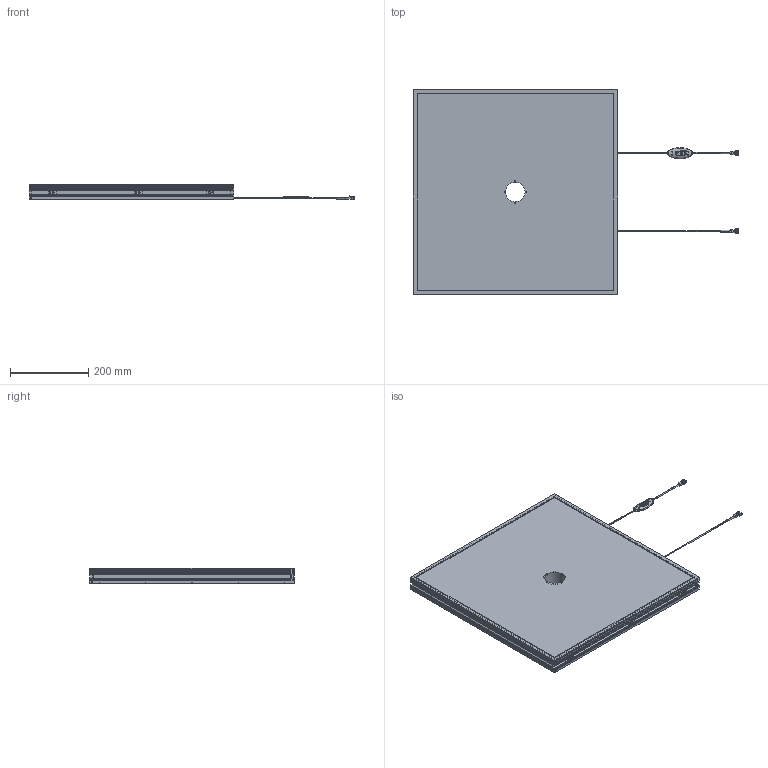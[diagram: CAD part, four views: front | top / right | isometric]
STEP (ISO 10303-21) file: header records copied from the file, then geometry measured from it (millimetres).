
FILE_DESCRIPTION( ('This file contains a STEP AP42 implementation' ,'as created by ZW3D STEP Interface translator.') ,'2;1' );
FILE_NAME( 'VDFHL-500500_DRAWING_3D.stp' ,'25 911.1539 7', (''), ('ZWCAD Software Co.'), 'Version 1.0', 'ZW3D to STEP translator', '' );
FILE_SCHEMA(('AUTOMOTIVE_DESIGN { 1 0 10303 214 1 1 1 1 }'));
Length unit declared in the file: millimetre
Products named in the file (1): 0
Bounding box: 833.5 x 523 x 38.6 mm (x, y, z)
Volume: 1441496.2 mm3; surface area: 1367921.8 mm2
Topology: 1 solids, 40 shells, 1728 faces, 4637 edges, 3103 vertices
Faces by surface type: plane 1050, cylinder 480, cone 180, bspline 10, torus 8
Full cylindrical faces by diameter (mm): 1.6 x104, 2 x8, 2.2 x28, 3 x4, 50 x1
Entity records: 57297 total; most frequent: CARTESIAN_POINT 11856, ORIENTED_EDGE 9130, DIRECTION 8595, EDGE_CURVE 4565, VECTOR 3229, LINE 3229, VERTEX_POINT 3103, AXIS2_PLACEMENT_3D 2683
